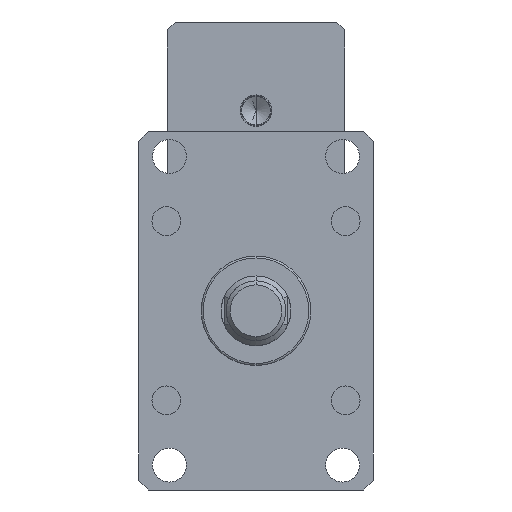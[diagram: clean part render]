
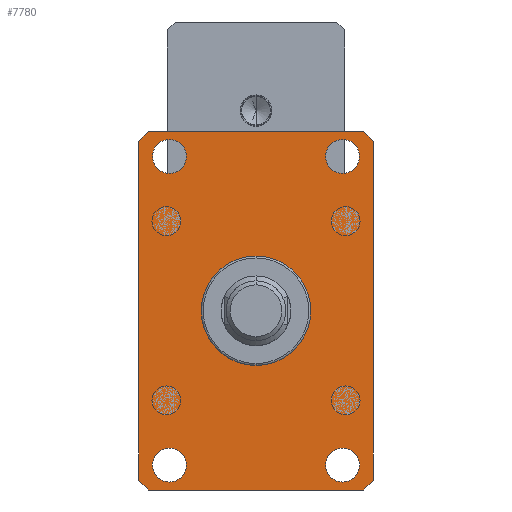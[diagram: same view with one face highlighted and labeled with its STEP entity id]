
A CAD part, front view. The second image highlights one B-rep face of the part: STEP entity #7780.
In plain terms, the highlighted planar face has unit normal (0, -1, 0).
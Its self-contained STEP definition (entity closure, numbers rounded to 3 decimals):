
#92 = EDGE_CURVE ( 'NONE', #4362, #6027, #882, .T. ) ;
#110 = EDGE_CURVE ( 'NONE', #9896, #1681, #5855, .T. ) ;
#243 = VECTOR ( 'NONE', #7624, 1000. ) ;
#539 = VERTEX_POINT ( 'NONE', #5861 ) ;
#601 = DIRECTION ( 'NONE',  ( 0., 0., 1. ) ) ;
#692 = CARTESIAN_POINT ( 'NONE',  ( -54., -55., 90. ) ) ;
#742 = ORIENTED_EDGE ( 'NONE', *, *, #9943, .T. ) ;
#787 = ORIENTED_EDGE ( 'NONE', *, *, #110, .T. ) ;
#882 = LINE ( 'NONE', #12232, #6155 ) ;
#945 = ORIENTED_EDGE ( 'NONE', *, *, #5639, .T. ) ;
#1193 = LINE ( 'NONE', #5336, #10751 ) ;
#1280 = CARTESIAN_POINT ( 'NONE',  ( -59., -55., -85. ) ) ;
#1321 = DIRECTION ( 'NONE',  ( 0., -1., 0. ) ) ;
#1410 = DIRECTION ( 'NONE',  ( 0., 0., -1. ) ) ;
#1451 = CARTESIAN_POINT ( 'NONE',  ( -59., -55., 85. ) ) ;
#1470 = CARTESIAN_POINT ( 'NONE',  ( 54., -55., 90. ) ) ;
#1627 = VERTEX_POINT ( 'NONE', #4199 ) ;
#1681 = VERTEX_POINT ( 'NONE', #6258 ) ;
#1696 = ORIENTED_EDGE ( 'NONE', *, *, #10138, .T. ) ;
#1715 = EDGE_CURVE ( 'NONE', #6027, #10384, #1193, .T. ) ;
#1771 = ORIENTED_EDGE ( 'NONE', *, *, #12003, .F. ) ;
#1982 = DIRECTION ( 'NONE',  ( 0., -1., 0. ) ) ;
#2037 = CIRCLE ( 'NONE', #12579, 8.5 ) ;
#2100 = VERTEX_POINT ( 'NONE', #3934 ) ;
#2209 = AXIS2_PLACEMENT_3D ( 'NONE', #7869, #1982, #8865 ) ;
#2218 = VERTEX_POINT ( 'NONE', #3198 ) ;
#2527 = CARTESIAN_POINT ( 'NONE',  ( 54., -55., -90. ) ) ;
#2568 = AXIS2_PLACEMENT_3D ( 'NONE', #4554, #11410, #5540 ) ;
#2647 = DIRECTION ( 'NONE',  ( 0., -1., 0. ) ) ;
#2713 = CIRCLE ( 'NONE', #2568, 8.5 ) ;
#2800 = EDGE_CURVE ( 'NONE', #6413, #4824, #10549, .T. ) ;
#2856 = LINE ( 'NONE', #11693, #7778 ) ;
#3142 = EDGE_LOOP ( 'NONE', ( #9864, #9093 ) ) ;
#3182 = CARTESIAN_POINT ( 'NONE',  ( 43.5, -55., 86. ) ) ;
#3198 = CARTESIAN_POINT ( 'NONE',  ( -43.5, -55., 69. ) ) ;
#3422 = DIRECTION ( 'NONE',  ( 0., 0., 1. ) ) ;
#3463 = CARTESIAN_POINT ( 'NONE',  ( 43.5, -55., -77.5 ) ) ;
#3509 = ORIENTED_EDGE ( 'NONE', *, *, #6922, .T. ) ;
#3510 = LINE ( 'NONE', #8548, #11056 ) ;
#3528 = AXIS2_PLACEMENT_3D ( 'NONE', #3463, #10361, #4451 ) ;
#3640 = FACE_BOUND ( 'NONE', #3142, .T. ) ;
#3658 = LINE ( 'NONE', #1451, #6275 ) ;
#3663 = DIRECTION ( 'NONE',  ( 0., -1., 0. ) ) ;
#3758 = CARTESIAN_POINT ( 'NONE',  ( -54., -55., 90. ) ) ;
#3934 = CARTESIAN_POINT ( 'NONE',  ( -54., -55., -90. ) ) ;
#3943 = AXIS2_PLACEMENT_3D ( 'NONE', #7200, #4262, #11128 ) ;
#3957 = FACE_BOUND ( 'NONE', #10755, .T. ) ;
#4148 = ORIENTED_EDGE ( 'NONE', *, *, #7168, .T. ) ;
#4156 = CARTESIAN_POINT ( 'NONE',  ( 59., -55., 85. ) ) ;
#4199 = CARTESIAN_POINT ( 'NONE',  ( -43.5, -55., -69. ) ) ;
#4262 = DIRECTION ( 'NONE',  ( 0., 1., 0. ) ) ;
#4362 = VERTEX_POINT ( 'NONE', #5846 ) ;
#4451 = DIRECTION ( 'NONE',  ( 0., 0., 1. ) ) ;
#4554 = CARTESIAN_POINT ( 'NONE',  ( -43.5, -55., -77.5 ) ) ;
#4824 = VERTEX_POINT ( 'NONE', #11402 ) ;
#4874 = EDGE_CURVE ( 'NONE', #7144, #8324, #3510, .T. ) ;
#5025 = ORIENTED_EDGE ( 'NONE', *, *, #1715, .T. ) ;
#5206 = ORIENTED_EDGE ( 'NONE', *, *, #9798, .F. ) ;
#5336 = CARTESIAN_POINT ( 'NONE',  ( 54., -55., 90. ) ) ;
#5373 = EDGE_CURVE ( 'NONE', #1681, #9896, #11329, .T. ) ;
#5526 = LINE ( 'NONE', #692, #243 ) ;
#5540 = DIRECTION ( 'NONE',  ( 0., 0., 1. ) ) ;
#5639 = EDGE_CURVE ( 'NONE', #8324, #9789, #3658, .T. ) ;
#5733 = AXIS2_PLACEMENT_3D ( 'NONE', #5801, #12609, #6799 ) ;
#5801 = CARTESIAN_POINT ( 'NONE',  ( 43.5, -55., -77.5 ) ) ;
#5846 = CARTESIAN_POINT ( 'NONE',  ( 59., -55., -85. ) ) ;
#5855 = CIRCLE ( 'NONE', #3528, 8.5 ) ;
#5861 = CARTESIAN_POINT ( 'NONE',  ( -43.5, -55., 86. ) ) ;
#6027 = VERTEX_POINT ( 'NONE', #4156 ) ;
#6068 = ORIENTED_EDGE ( 'NONE', *, *, #5373, .T. ) ;
#6123 = AXIS2_PLACEMENT_3D ( 'NONE', #9561, #3663, #10551 ) ;
#6155 = VECTOR ( 'NONE', #3422, 1000. ) ;
#6258 = CARTESIAN_POINT ( 'NONE',  ( 43.5, -55., -69. ) ) ;
#6259 = FACE_OUTER_BOUND ( 'NONE', #8480, .T. ) ;
#6275 = VECTOR ( 'NONE', #1410, 1000. ) ;
#6413 = VERTEX_POINT ( 'NONE', #3182 ) ;
#6553 = DIRECTION ( 'NONE',  ( 0., 1., 0. ) ) ;
#6637 = ORIENTED_EDGE ( 'NONE', *, *, #11990, .T. ) ;
#6778 = AXIS2_PLACEMENT_3D ( 'NONE', #7254, #1321, #8216 ) ;
#6799 = DIRECTION ( 'NONE',  ( 0., 0., 1. ) ) ;
#6922 = EDGE_CURVE ( 'NONE', #10384, #7144, #5526, .T. ) ;
#7032 = LINE ( 'NONE', #12295, #9323 ) ;
#7144 = VERTEX_POINT ( 'NONE', #3758 ) ;
#7168 = EDGE_CURVE ( 'NONE', #11475, #4362, #10284, .T. ) ;
#7200 = CARTESIAN_POINT ( 'NONE',  ( 59., -55., -90. ) ) ;
#7254 = CARTESIAN_POINT ( 'NONE',  ( -43.5, -55., 77.5 ) ) ;
#7282 = CIRCLE ( 'NONE', #11286, 8.5 ) ;
#7416 = CARTESIAN_POINT ( 'NONE',  ( -43.5, -55., -86. ) ) ;
#7452 = DIRECTION ( 'NONE',  ( 1., 0., 0. ) ) ;
#7524 = EDGE_CURVE ( 'NONE', #4824, #6413, #8728, .T. ) ;
#7624 = DIRECTION ( 'NONE',  ( -1., 0., 0. ) ) ;
#7657 = VECTOR ( 'NONE', #12564, 1000. ) ;
#7778 = VECTOR ( 'NONE', #12660, 1000. ) ;
#7780 = ADVANCED_FACE ( 'NONE', ( #3957, #8870, #11459, #6259, #3640 ), #12035, .F. ) ;
#7869 = CARTESIAN_POINT ( 'NONE',  ( 43.5, -55., 77.5 ) ) ;
#7946 = VERTEX_POINT ( 'NONE', #7416 ) ;
#7952 = EDGE_CURVE ( 'NONE', #2100, #11475, #7032, .T. ) ;
#8119 = CARTESIAN_POINT ( 'NONE',  ( -59., -55., 85. ) ) ;
#8216 = DIRECTION ( 'NONE',  ( 0., 0., -1. ) ) ;
#8244 = EDGE_LOOP ( 'NONE', ( #742, #6637 ) ) ;
#8324 = VERTEX_POINT ( 'NONE', #8119 ) ;
#8480 = EDGE_LOOP ( 'NONE', ( #12624, #4148, #10881, #5025, #3509, #10268, #945, #1696 ) ) ;
#8530 = CARTESIAN_POINT ( 'NONE',  ( -43.5, -55., 77.5 ) ) ;
#8548 = CARTESIAN_POINT ( 'NONE',  ( -59., -55., 85. ) ) ;
#8591 = DIRECTION ( 'NONE',  ( -0.707, 0., -0.707 ) ) ;
#8728 = CIRCLE ( 'NONE', #2209, 8.5 ) ;
#8865 = DIRECTION ( 'NONE',  ( 0., 0., -1. ) ) ;
#8870 = FACE_BOUND ( 'NONE', #11002, .T. ) ;
#8989 = CIRCLE ( 'NONE', #6778, 8.5 ) ;
#9093 = ORIENTED_EDGE ( 'NONE', *, *, #7524, .F. ) ;
#9323 = VECTOR ( 'NONE', #7452, 1000. ) ;
#9523 = DIRECTION ( 'NONE',  ( 0., 0., -1. ) ) ;
#9561 = CARTESIAN_POINT ( 'NONE',  ( 43.5, -55., 77.5 ) ) ;
#9789 = VERTEX_POINT ( 'NONE', #1280 ) ;
#9798 = EDGE_CURVE ( 'NONE', #539, #2218, #8989, .T. ) ;
#9864 = ORIENTED_EDGE ( 'NONE', *, *, #2800, .F. ) ;
#9896 = VERTEX_POINT ( 'NONE', #12289 ) ;
#9943 = EDGE_CURVE ( 'NONE', #1627, #7946, #2713, .T. ) ;
#10138 = EDGE_CURVE ( 'NONE', #9789, #2100, #2856, .T. ) ;
#10268 = ORIENTED_EDGE ( 'NONE', *, *, #4874, .T. ) ;
#10284 = LINE ( 'NONE', #11596, #7657 ) ;
#10361 = DIRECTION ( 'NONE',  ( 0., 1., 0. ) ) ;
#10384 = VERTEX_POINT ( 'NONE', #1470 ) ;
#10549 = CIRCLE ( 'NONE', #6123, 8.5 ) ;
#10551 = DIRECTION ( 'NONE',  ( 0., 0., -1. ) ) ;
#10751 = VECTOR ( 'NONE', #12178, 1000. ) ;
#10755 = EDGE_LOOP ( 'NONE', ( #5206, #1771 ) ) ;
#10881 = ORIENTED_EDGE ( 'NONE', *, *, #92, .T. ) ;
#11002 = EDGE_LOOP ( 'NONE', ( #6068, #787 ) ) ;
#11056 = VECTOR ( 'NONE', #8591, 1000. ) ;
#11128 = DIRECTION ( 'NONE',  ( 0., 0., 1. ) ) ;
#11286 = AXIS2_PLACEMENT_3D ( 'NONE', #12394, #6553, #601 ) ;
#11329 = CIRCLE ( 'NONE', #5733, 8.5 ) ;
#11402 = CARTESIAN_POINT ( 'NONE',  ( 43.5, -55., 69. ) ) ;
#11410 = DIRECTION ( 'NONE',  ( 0., 1., 0. ) ) ;
#11459 = FACE_BOUND ( 'NONE', #8244, .T. ) ;
#11475 = VERTEX_POINT ( 'NONE', #2527 ) ;
#11596 = CARTESIAN_POINT ( 'NONE',  ( 54., -55., -90. ) ) ;
#11693 = CARTESIAN_POINT ( 'NONE',  ( -59., -55., -85. ) ) ;
#11990 = EDGE_CURVE ( 'NONE', #7946, #1627, #7282, .T. ) ;
#12003 = EDGE_CURVE ( 'NONE', #2218, #539, #2037, .T. ) ;
#12035 = PLANE ( 'NONE',  #3943 ) ;
#12178 = DIRECTION ( 'NONE',  ( -0.707, 0., 0.707 ) ) ;
#12232 = CARTESIAN_POINT ( 'NONE',  ( 59., -55., 85. ) ) ;
#12289 = CARTESIAN_POINT ( 'NONE',  ( 43.5, -55., -86. ) ) ;
#12295 = CARTESIAN_POINT ( 'NONE',  ( -54., -55., -90. ) ) ;
#12394 = CARTESIAN_POINT ( 'NONE',  ( -43.5, -55., -77.5 ) ) ;
#12564 = DIRECTION ( 'NONE',  ( 0.707, 0., 0.707 ) ) ;
#12579 = AXIS2_PLACEMENT_3D ( 'NONE', #8530, #2647, #9523 ) ;
#12609 = DIRECTION ( 'NONE',  ( 0., 1., 0. ) ) ;
#12624 = ORIENTED_EDGE ( 'NONE', *, *, #7952, .T. ) ;
#12660 = DIRECTION ( 'NONE',  ( 0.707, 0., -0.707 ) ) ;
